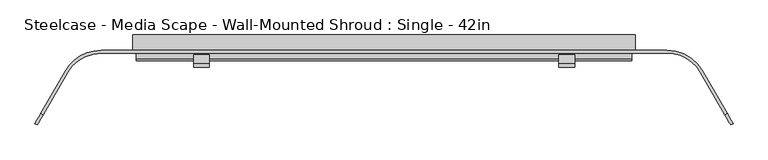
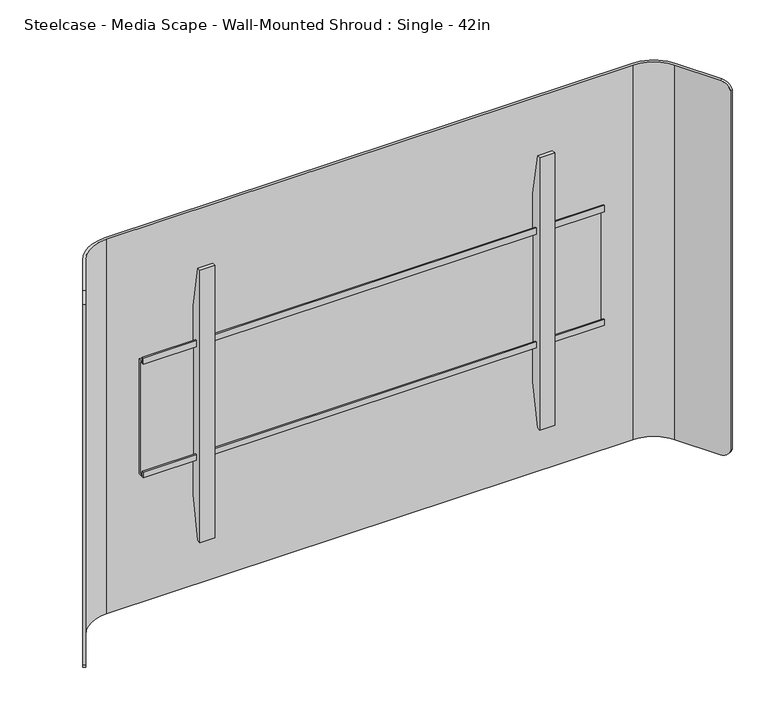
"""IFC4 building model written with IfcOpenShell, lengths in millimetres: furniture geometry, Steelcase - Media Scape - Wall-Mounted Shroud : Single - 42in."""

from ifc_helpers import new_model, si_unit, frame, origin, place, context, project, spatial, polyline, circle_curve, outline, extrude, source, transform, mapped, element, save
from ifc_brep_helpers import plane_surface, cylinder_surface, revolved_surface, advanced_brep


def steelcase_media_scape_wall_mounted_shroud_single_42in_983a13c6(model_context):
    return source(origin(), model_context, "Body", "SolidModel", [
        extrude(outline(polyline([(-42.4942785, 1288.4504726), (-42.4942785, 1300.4645649), (-39.8272175, 1300.4645649), (-39.8272175, 1291.117461), (-29.9720009, 1291.117461), (-29.9720009, 1076.7922438), (-42.3164551, 1076.7922438), (-42.3164551, 1087.7142515), (-39.649394, 1087.7142515), (-39.649394, 1079.457052), (-32.6531824, 1079.457052), (-32.6531824, 1288.4504726), (-42.4942785, 1288.4504726)])), frame((-406.4, 0.0, 0.0), z_axis=(1.0, 0.0, 0.0), x_axis=(0.0, 1.0, 0.0)), (0.0, 0.0, 1.0), 812.8),
        extrude(outline(polyline([(-32.6531824, 1359.3971148), (-32.6531824, 1007.5825607), (-46.5049349, 929.9546949), (-53.3399828, 929.9546949), (-53.3399828, 1437.9547192), (-46.5050076, 1437.9547192), (-32.6531824, 1359.3971148)])), frame((286.6392868, 0.0, 0.0), z_axis=(1.0, 0.0, 0.0), x_axis=(0.0, 1.0, 0.0)), (0.0, 0.0, 1.0), 26.1592872),
        extrude(outline(polyline([(-32.6531824, 1359.3971148), (-32.6531824, 1007.5825607), (-46.5049349, 929.9546949), (-53.3399828, 929.9546949), (-53.3399828, 1437.9547192), (-46.5050076, 1437.9547192), (-32.6531824, 1359.3971148)])), frame((-312.798574, 0.0, 0.0), z_axis=(1.0, 0.0, 0.0), x_axis=(0.0, 1.0, 0.0)), (0.0, 0.0, 1.0), 26.1592872),
        advanced_brep(
        [(-519.5586135, -61.722, 1534.414), (-464.566002, -29.9720009, 1534.414), (464.566, -29.9720009, 1534.414), (519.5586135, -61.722, 1534.414), (559.679586, -131.2135628, 1534.414), (563.6390541, -128.9275628, 1534.414), (523.5180817, -59.436, 1534.414), (464.566002, -25.4, 1534.414), (-464.566, -25.4, 1534.414), (-523.5180817, -59.436, 1534.414), (-563.6421659, -128.9329524, 1534.414), (-559.6826977, -131.2189524, 1534.414), (-523.5180817, -59.436, 835.914), (-464.566002, -25.4, 835.914), (464.566, -25.4, 835.914), (523.5180817, -59.436, 835.914), (563.6906629, -129.0169518, 835.914), (559.7311948, -131.3029518, 835.914), (519.5586135, -61.722, 835.914), (464.566002, -29.9720009, 835.914), (-464.566, -29.9720009, 835.914), (-519.5586135, -61.722, 835.914), (-559.7454014, -131.3275584, 835.914), (-563.7048695, -129.0415584, 835.914), (-573.2090632, -145.5033047, 849.5242766), (-573.2090632, -145.5033047, 1520.4227735), (-569.2495951, -147.7893047, 1520.4227735), (-569.2495951, -147.7893047, 849.5242766), (569.2270866, -147.7503189, 849.4756893), (569.2270866, -147.7503189, 1520.5433849), (573.1865547, -145.4643189, 1520.5433849), (573.1865547, -145.4643189, 849.4756893)],
        [
            (0, 1, circle_curve(frame((-464.566002, -93.4719991, 1534.414), z_axis=(0.0, 0.0, -1.0), x_axis=(0.0, 1.0, 0.0)), 63.4999981)),
            (1, 2),
            (2, 3, circle_curve(frame((464.566002, -93.4719991, 1534.414), z_axis=(0.0, 0.0, -1.0), x_axis=(0.0, 1.0, 0.0)), 63.4999981)),
            (3, 4),
            (4, 5),
            (5, 6),
            (6, 7, circle_curve(frame((464.5660004, -93.472, 1534.414), z_axis=(0.0, 0.0, 1.0), x_axis=(0.0, 1.0, 0.0)), 68.072)),
            (7, 8),
            (8, 9, circle_curve(frame((-464.5660004, -93.472, 1534.414), z_axis=(0.0, 0.0, 1.0), x_axis=(0.0, 1.0, 0.0)), 68.072)),
            (9, 10),
            (10, 11),
            (11, 0),
            (12, 13, circle_curve(frame((-464.5660004, -93.472, 835.914), z_axis=(0.0, 0.0, -1.0), x_axis=(0.0, 1.0, 0.0)), 68.072)),
            (13, 14),
            (14, 15, circle_curve(frame((464.5660004, -93.472, 835.914), z_axis=(0.0, 0.0, -1.0), x_axis=(0.0, 1.0, 0.0)), 68.072)),
            (15, 16),
            (16, 17),
            (17, 18),
            (18, 19, circle_curve(frame((464.566002, -93.4719991, 835.914), z_axis=(0.0, 0.0, 1.0), x_axis=(0.0, 1.0, 0.0)), 63.4999981)),
            (19, 20),
            (20, 21, circle_curve(frame((-464.566002, -93.4719991, 835.914), z_axis=(0.0, 0.0, 1.0), x_axis=(0.0, 1.0, 0.0)), 63.4999981)),
            (21, 22),
            (22, 23),
            (23, 12),
            (0, 21),
            (20, 1),
            (8, 13),
            (12, 9),
            (23, 24, circle_curve(frame((-563.7048695, -129.0415584, 855.9928872), z_axis=(-0.8660254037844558, 0.4999999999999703, 0.0), x_axis=(-0.4999999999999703, -0.8660254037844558, 0.0)), 20.0788872)),
            (24, 25),
            (25, 10, circle_curve(frame((-563.6421659, -128.9329524, 1514.3351128), z_axis=(-0.866025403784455, 0.49999999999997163, 0.0), x_axis=(-0.49999999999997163, -0.866025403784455, 0.0)), 20.0788872)),
            (26, 25),
            (24, 27),
            (27, 26),
            (11, 26, circle_curve(frame((-559.6826977, -131.2189524, 1514.3351128), z_axis=(0.866025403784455, -0.49999999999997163, 0.0), x_axis=(-0.49999999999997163, -0.866025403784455, 0.0)), 20.0788872)),
            (27, 22, circle_curve(frame((-559.7454014, -131.3275584, 855.9928872), z_axis=(0.8660254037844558, -0.4999999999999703, 0.0), x_axis=(-0.4999999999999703, -0.8660254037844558, 0.0)), 20.0788872)),
            (7, 14),
            (19, 2),
            (3, 18),
            (17, 28, circle_curve(frame((559.7311948, -131.3029518, 855.9928872), z_axis=(-0.8660254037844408, -0.4999999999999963, 0.0), x_axis=(0.4999999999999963, -0.8660254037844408, 0.0)), 20.0788872)),
            (28, 29),
            (29, 4, circle_curve(frame((559.679586, -131.2135628, 1514.3351128), z_axis=(-0.86602540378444, -0.4999999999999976, 0.0), x_axis=(0.4999999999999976, -0.86602540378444, 0.0)), 20.0788872)),
            (30, 29),
            (28, 31),
            (31, 30),
            (15, 6),
            (5, 30, circle_curve(frame((563.6390541, -128.9275628, 1514.3351128), z_axis=(0.86602540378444, 0.4999999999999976, 0.0), x_axis=(0.4999999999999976, -0.86602540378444, 0.0)), 20.0788872)),
            (31, 16, circle_curve(frame((563.6906629, -129.0169518, 855.9928872), z_axis=(0.8660254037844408, 0.4999999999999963, 0.0), x_axis=(0.4999999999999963, -0.8660254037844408, 0.0)), 20.0788872)),
        ],
        [
            plane_surface(frame((-464.566002, -29.9720009, 1534.414), z_axis=(0.0, 0.0, 1.0), x_axis=(1.0, 0.0, 0.0))),
            plane_surface(frame((-464.566002, -29.9720009, 835.914), z_axis=(0.0, 0.0, -1.0), x_axis=(-1.0, 0.0, 0.0))),
            revolved_surface(polyline([(-464.566002, -29.972001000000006, 835.914), (-464.566002, -29.972001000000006, 1534.414)]), (-464.566002, -93.4719991, 835.914), (0.0, 0.0, -1.0)),
            cylinder_surface(frame((-464.5660004, -93.472, 835.914), z_axis=(0.0, 0.0, 1.0), x_axis=(0.0, 1.0, 0.0)), 68.072),
            plane_surface(frame((-523.5180817, -59.436, 1534.414), z_axis=(-0.866025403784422, 0.5000000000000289, 0.0), x_axis=(0.0, 0.0, -1.0))),
            plane_surface(frame((-573.2090632, -145.5033047, 1534.414), z_axis=(-0.5000000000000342, -0.866025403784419, 0.0), x_axis=(0.0, 0.0, -1.0))),
            plane_surface(frame((-569.2495951, -147.7893047, 1534.414), z_axis=(0.8660254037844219, -0.500000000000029, 0.0), x_axis=(0.0, 0.0, -1.0))),
            plane_surface(frame((464.566, -25.4, 1534.414), z_axis=(0.0, 1.0, 0.0), x_axis=(0.0, 0.0, -1.0))),
            plane_surface(frame((-464.566, -29.9720009, 1534.414), z_axis=(0.0, -1.0, 0.0), x_axis=(0.0, 0.0, -1.0))),
            plane_surface(frame((519.5586135, -61.722, 1534.414), z_axis=(-0.8660254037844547, -0.4999999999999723, 0.0), x_axis=(0.0, 0.0, -1.0))),
            plane_surface(frame((569.2270866, -147.7503189, 1534.414), z_axis=(0.4999999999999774, -0.8660254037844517, 0.0), x_axis=(0.0, 0.0, -1.0))),
            plane_surface(frame((573.1865547, -145.4643189, 1534.414), z_axis=(0.8660254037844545, 0.49999999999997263, 0.0), x_axis=(0.0, 0.0, -1.0))),
            cylinder_surface(frame((464.5660004, -93.472, 835.914), z_axis=(0.0, 0.0, 1.0), x_axis=(0.0, 1.0, 0.0)), 68.072),
            revolved_surface(polyline([(464.566002, -29.972001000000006, 835.914), (464.566002, -29.972001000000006, 1534.414)]), (464.566002, -93.4719991, 835.914), (0.0, 0.0, -1.0)),
            cylinder_surface(frame((-559.6826977, -131.2189524, 1514.3351128), z_axis=(0.866025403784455, -0.49999999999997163, 0.0), x_axis=(-0.49999999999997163, -0.866025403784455, 0.0)), 20.0788872),
            cylinder_surface(frame((-559.7454014, -131.3275584, 855.9928872), z_axis=(0.8660254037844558, -0.4999999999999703, 0.0), x_axis=(-0.4999999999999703, -0.8660254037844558, 0.0)), 20.0788872),
            cylinder_surface(frame((574.7864297, -122.4916225, 1514.3351128), z_axis=(0.86602540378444, 0.4999999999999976, 0.0), x_axis=(0.4999999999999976, -0.86602540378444, 0.0)), 20.0788872),
            cylinder_surface(frame((571.9789695, -124.2316958, 855.9928872), z_axis=(0.8660254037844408, 0.4999999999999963, 0.0), x_axis=(0.4999999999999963, -0.8660254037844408, 0.0)), 20.0788872),
        ],
        [
            (0, [[1, 2, 3, 4, 5, 6, 7, 8, 9, 10, 11, 12]]),
            (1, [[13, 14, 15, 16, 17, 18, 19, 20, 21, 22, 23, 24]]),
            (2, [[-1, 25, -21, 26]]),
            (3, [[-9, 27, -13, 28]]),
            (4, [[-28, -24, 29, 30, 31, -10]]),
            (5, [[32, -30, 33, 34]]),
            (6, [[-25, -12, 35, -34, 36, -22]]),
            (7, [[-8, 37, -14, -27]]),
            (8, [[-2, -26, -20, 38]]),
            (9, [[39, -18, 40, 41, 42, -4]]),
            (10, [[43, -41, 44, 45]]),
            (11, [[46, -6, 47, -45, 48, -16]]),
            (12, [[-7, -46, -15, -37]]),
            (13, [[-3, -38, -19, -39]]),
            (14, [[-11, -31, -32, -35]]),
            (15, [[-23, -36, -33, -29]]),
            (16, [[-5, -42, -43, -47]]),
            (17, [[-17, -48, -44, -40]]),
        ],
    ),
        extrude(outline(polyline([(912.1648167, 349.2499879), (912.1648167, 412.75), (1458.214, 412.75), (1458.214, -412.75), (912.1648167, -412.75), (912.1648167, -350.2433465), (1394.7139516, -350.2433465), (1394.7139516, 349.2499879), (912.1648167, 349.2499879)])), frame((0.0, -25.4, 0.0), z_axis=(0.0, 1.0, 0.0), x_axis=(0.0, 0.0, 1.0)), (0.0, 0.0, 1.0), 25.4),
    ])


if __name__ == "__main__":
    model = new_model("IFC4")
    model_context = context("Model", 3, world=origin())
    ifc_project = project(units=[si_unit("LENGTHUNIT", "METRE", prefix="MILLI")], contexts=[model_context])
    site = spatial("IfcSite", under=ifc_project)
    building = spatial("IfcBuilding", under=site)
    placement = place(None, origin())
    steelcase_media_scape_wall_mounted_shroud_single_42in_shape = steelcase_media_scape_wall_mounted_shroud_single_42in_983a13c6(model_context)
    element("IfcFurniture", 1, ObjectType="Steelcase - Media Scape - Wall-Mounted Shroud : Single - 42in", at=placement, inside=building, context=model_context, shape_type="MappedRepresentation", body=[
        mapped(steelcase_media_scape_wall_mounted_shroud_single_42in_shape, transform((0.0, 0.0, 0.0), x_axis=(1.0, 0.0, 0.0), y_axis=(0.0, 1.0, 0.0), z_axis=(0.0, 0.0, 1.0))),
    ])
    save(model, "model.ifc")
